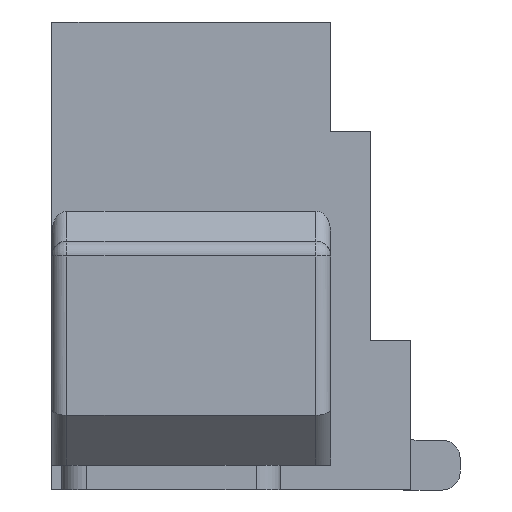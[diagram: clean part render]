
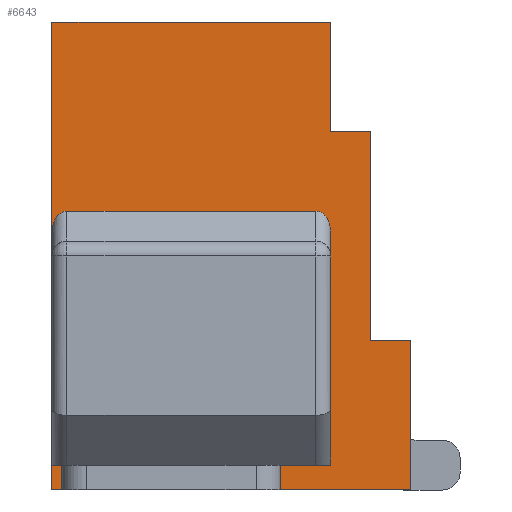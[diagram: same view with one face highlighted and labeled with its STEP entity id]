
A CAD part, left-side view. The second image highlights one B-rep face of the part: STEP entity #6643.
In plain terms, the highlighted planar face has unit normal (-1, 0, 0).
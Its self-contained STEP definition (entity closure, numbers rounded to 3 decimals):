
#678 = CARTESIAN_POINT ( 'NONE',  ( -4.625, -1.2, 4.7 ) ) ;
#1043 = CARTESIAN_POINT ( 'NONE',  ( -4.625, 1.6, 0.25 ) ) ;
#1081 = ORIENTED_EDGE ( 'NONE', *, *, #4587, .F. ) ;
#1216 = CARTESIAN_POINT ( 'NONE',  ( -4.625, -1.2, 2.5 ) ) ;
#1502 = CARTESIAN_POINT ( 'NONE',  ( -4.625, -1.2, 2.588 ) ) ;
#2462 = DIRECTION ( 'NONE',  ( 0., 0., -1. ) ) ;
#2987 = EDGE_CURVE ( 'NONE', #24778, #18740, #32776, .T. ) ;
#3544 = DIRECTION ( 'NONE',  ( 0., -1., 0. ) ) ;
#3736 = VECTOR ( 'NONE', #28063, 1000. ) ;
#3970 = CARTESIAN_POINT ( 'NONE',  ( -4.625, 1.6, 2.588 ) ) ;
#4427 = LINE ( 'NONE', #27823, #24252 ) ;
#4587 = EDGE_CURVE ( 'NONE', #24405, #8623, #10795, .T. ) ;
#4783 = CARTESIAN_POINT ( 'NONE',  ( -4.625, -1.05, 2.8 ) ) ;
#5205 = ORIENTED_EDGE ( 'NONE', *, *, #5785, .F. ) ;
#5344 = DIRECTION ( 'NONE',  ( 0., -1., 0. ) ) ;
#5785 = EDGE_CURVE ( 'NONE', #8359, #18132, #15405, .T. ) ;
#6172 = CARTESIAN_POINT ( 'NONE',  ( -4.625, -1.2, 2.588 ) ) ;
#6388 = DIRECTION ( 'NONE',  ( 0., -1., 0. ) ) ;
#6583 = VECTOR ( 'NONE', #20630, 1000. ) ;
#6643 = ADVANCED_FACE ( 'NONE', ( #15133 ), #12452, .F. ) ;
#7342 = CARTESIAN_POINT ( 'NONE',  ( -4.625, 1.6, 0. ) ) ;
#7713 = LINE ( 'NONE', #19507, #25571 ) ;
#8359 = VERTEX_POINT ( 'NONE', #16438 ) ;
#8623 = VERTEX_POINT ( 'NONE', #14408 ) ;
#8657 = CARTESIAN_POINT ( 'NONE',  ( -4.625, 0., 1.5 ) ) ;
#8848 = DIRECTION ( 'NONE',  ( 0., 0., -1. ) ) ;
#9201 = ORIENTED_EDGE ( 'NONE', *, *, #11992, .F. ) ;
#9507 = CARTESIAN_POINT ( 'NONE',  ( -4.625, 1.6, 4.7 ) ) ;
#9542 = LINE ( 'NONE', #1043, #19523 ) ;
#9736 = EDGE_LOOP ( 'NONE', ( #19450, #20191, #28172, #22085, #24356, #9201, #20410, #20814, #5205, #19264, #1081, #21553, #17123, #14789 ) ) ;
#9910 = LINE ( 'NONE', #10101, #16209 ) ;
#10006 = VECTOR ( 'NONE', #21312, 1000. ) ;
#10101 = CARTESIAN_POINT ( 'NONE',  ( -4.625, 1.6, 2.8 ) ) ;
#10440 = DIRECTION ( 'NONE',  ( 0., -1., 0. ) ) ;
#10795 = LINE ( 'NONE', #26027, #13609 ) ;
#11072 = EDGE_CURVE ( 'NONE', #18740, #35823, #15908, .T. ) ;
#11865 = CARTESIAN_POINT ( 'NONE',  ( -4.625, -2., 0. ) ) ;
#11992 = EDGE_CURVE ( 'NONE', #31459, #35823, #9542, .T. ) ;
#12429 = LINE ( 'NONE', #9507, #30739 ) ;
#12452 = PLANE ( 'NONE',  #34678 ) ;
#12641 = DIRECTION ( 'NONE',  ( 0., 0., -1. ) ) ;
#12678 = CARTESIAN_POINT ( 'NONE',  ( -4.625, 1.6, 2.712 ) ) ;
#12838 = DIRECTION ( 'NONE',  ( 1., 0., 0. ) ) ;
#13050 =( BOUNDED_CURVE ( )  B_SPLINE_CURVE ( 3, ( #3970, #12678, #15943, #33549 ),
 .UNSPECIFIED., .F., .T. ) 
 B_SPLINE_CURVE_WITH_KNOTS ( ( 4, 4 ),
 ( 4.712, 6.283 ),
 .UNSPECIFIED. ) 
 CURVE ( )  GEOMETRIC_REPRESENTATION_ITEM ( )  RATIONAL_B_SPLINE_CURVE ( ( 1., 0.805, 0.805, 1. ) ) 
 REPRESENTATION_ITEM ( '' )  );
#13284 = LINE ( 'NONE', #28333, #28583 ) ;
#13609 = VECTOR ( 'NONE', #2462, 1000. ) ;
#14408 = CARTESIAN_POINT ( 'NONE',  ( -4.625, -1.6, 1.5 ) ) ;
#14510 = VERTEX_POINT ( 'NONE', #31891 ) ;
#14789 = ORIENTED_EDGE ( 'NONE', *, *, #30183, .F. ) ;
#15133 = FACE_OUTER_BOUND ( 'NONE', #9736, .T. ) ;
#15405 = LINE ( 'NONE', #23516, #37061 ) ;
#15424 = EDGE_CURVE ( 'NONE', #8623, #8359, #32621, .T. ) ;
#15908 = LINE ( 'NONE', #1216, #3736 ) ;
#15943 = CARTESIAN_POINT ( 'NONE',  ( -4.625, 1.538, 2.8 ) ) ;
#16085 = CARTESIAN_POINT ( 'NONE',  ( -4.625, -1.2, 3.6 ) ) ;
#16209 = VECTOR ( 'NONE', #3544, 1000. ) ;
#16357 = EDGE_CURVE ( 'NONE', #23687, #30453, #13050, .T. ) ;
#16438 = CARTESIAN_POINT ( 'NONE',  ( -4.625, -2., 1.5 ) ) ;
#16630 = CARTESIAN_POINT ( 'NONE',  ( -4.625, 1.45, 2.8 ) ) ;
#16774 = VECTOR ( 'NONE', #5344, 1000. ) ;
#16981 = DIRECTION ( 'NONE',  ( 0., 0., 1. ) ) ;
#17123 = ORIENTED_EDGE ( 'NONE', *, *, #22810, .T. ) ;
#18132 = VERTEX_POINT ( 'NONE', #11865 ) ;
#18314 = VERTEX_POINT ( 'NONE', #678 ) ;
#18417 = CARTESIAN_POINT ( 'NONE',  ( -4.625, 1.6, 4.7 ) ) ;
#18740 = VERTEX_POINT ( 'NONE', #6172 ) ;
#18800 = CARTESIAN_POINT ( 'NONE',  ( -4.625, 1.6, 4.7 ) ) ;
#19264 = ORIENTED_EDGE ( 'NONE', *, *, #15424, .F. ) ;
#19283 = CARTESIAN_POINT ( 'NONE',  ( -4.625, -1.2, 2.712 ) ) ;
#19450 = ORIENTED_EDGE ( 'NONE', *, *, #26447, .T. ) ;
#19507 = CARTESIAN_POINT ( 'NONE',  ( -4.625, -1.2, 3.6 ) ) ;
#19523 = VECTOR ( 'NONE', #27891, 1000. ) ;
#20191 = ORIENTED_EDGE ( 'NONE', *, *, #16357, .T. ) ;
#20410 = ORIENTED_EDGE ( 'NONE', *, *, #37486, .F. ) ;
#20630 = DIRECTION ( 'NONE',  ( 0., -1., 0. ) ) ;
#20814 = ORIENTED_EDGE ( 'NONE', *, *, #22047, .T. ) ;
#21312 = DIRECTION ( 'NONE',  ( 0., 0., 1. ) ) ;
#21553 = ORIENTED_EDGE ( 'NONE', *, *, #25598, .F. ) ;
#21664 = EDGE_CURVE ( 'NONE', #30453, #24778, #9910, .T. ) ;
#22047 = EDGE_CURVE ( 'NONE', #22895, #18132, #4427, .T. ) ;
#22085 = ORIENTED_EDGE ( 'NONE', *, *, #2987, .T. ) ;
#22407 = VERTEX_POINT ( 'NONE', #16085 ) ;
#22810 = EDGE_CURVE ( 'NONE', #22407, #18314, #7713, .T. ) ;
#22895 = VERTEX_POINT ( 'NONE', #7342 ) ;
#23516 = CARTESIAN_POINT ( 'NONE',  ( -4.625, -2., 10.759 ) ) ;
#23687 = VERTEX_POINT ( 'NONE', #33099 ) ;
#24252 = VECTOR ( 'NONE', #10440, 1000. ) ;
#24356 = ORIENTED_EDGE ( 'NONE', *, *, #11072, .T. ) ;
#24405 = VERTEX_POINT ( 'NONE', #26768 ) ;
#24778 = VERTEX_POINT ( 'NONE', #37932 ) ;
#24899 = CARTESIAN_POINT ( 'NONE',  ( -4.625, -1.138, 2.8 ) ) ;
#25571 = VECTOR ( 'NONE', #16981, 1000. ) ;
#25598 = EDGE_CURVE ( 'NONE', #22407, #24405, #32608, .T. ) ;
#26027 = CARTESIAN_POINT ( 'NONE',  ( -4.625, -1.6, 4.7 ) ) ;
#26447 = EDGE_CURVE ( 'NONE', #14510, #23687, #13284, .T. ) ;
#26768 = CARTESIAN_POINT ( 'NONE',  ( -4.625, -1.6, 3.6 ) ) ;
#27506 = LINE ( 'NONE', #18800, #10006 ) ;
#27823 = CARTESIAN_POINT ( 'NONE',  ( -4.625, 1.6, 0. ) ) ;
#27891 = DIRECTION ( 'NONE',  ( 0., -1., 0. ) ) ;
#28063 = DIRECTION ( 'NONE',  ( 0., 0., -1. ) ) ;
#28172 = ORIENTED_EDGE ( 'NONE', *, *, #21664, .T. ) ;
#28333 = CARTESIAN_POINT ( 'NONE',  ( -4.625, 1.6, 4.7 ) ) ;
#28583 = VECTOR ( 'NONE', #34490, 1000. ) ;
#30183 = EDGE_CURVE ( 'NONE', #14510, #18314, #12429, .T. ) ;
#30453 = VERTEX_POINT ( 'NONE', #16630 ) ;
#30739 = VECTOR ( 'NONE', #6388, 1000. ) ;
#31459 = VERTEX_POINT ( 'NONE', #37356 ) ;
#31831 = CARTESIAN_POINT ( 'NONE',  ( -4.625, -1.6, 3.6 ) ) ;
#31891 = CARTESIAN_POINT ( 'NONE',  ( -4.625, 1.6, 4.7 ) ) ;
#32608 = LINE ( 'NONE', #31831, #16774 ) ;
#32621 = LINE ( 'NONE', #8657, #6583 ) ;
#32776 =( BOUNDED_CURVE ( )  B_SPLINE_CURVE ( 3, ( #4783, #24899, #19283, #1502 ),
 .UNSPECIFIED., .F., .T. ) 
 B_SPLINE_CURVE_WITH_KNOTS ( ( 4, 4 ),
 ( 0., 1.571 ),
 .UNSPECIFIED. ) 
 CURVE ( )  GEOMETRIC_REPRESENTATION_ITEM ( )  RATIONAL_B_SPLINE_CURVE ( ( 1., 0.805, 0.805, 1. ) ) 
 REPRESENTATION_ITEM ( '' )  );
#33099 = CARTESIAN_POINT ( 'NONE',  ( -4.625, 1.6, 2.588 ) ) ;
#33506 = CARTESIAN_POINT ( 'NONE',  ( -4.625, -1.2, 0.25 ) ) ;
#33549 = CARTESIAN_POINT ( 'NONE',  ( -4.625, 1.45, 2.8 ) ) ;
#34490 = DIRECTION ( 'NONE',  ( 0., 0., -1. ) ) ;
#34678 = AXIS2_PLACEMENT_3D ( 'NONE', #18417, #12838, #12641 ) ;
#35823 = VERTEX_POINT ( 'NONE', #33506 ) ;
#37061 = VECTOR ( 'NONE', #8848, 1000. ) ;
#37356 = CARTESIAN_POINT ( 'NONE',  ( -4.625, 1.6, 0.25 ) ) ;
#37486 = EDGE_CURVE ( 'NONE', #22895, #31459, #27506, .T. ) ;
#37932 = CARTESIAN_POINT ( 'NONE',  ( -4.625, -1.05, 2.8 ) ) ;
